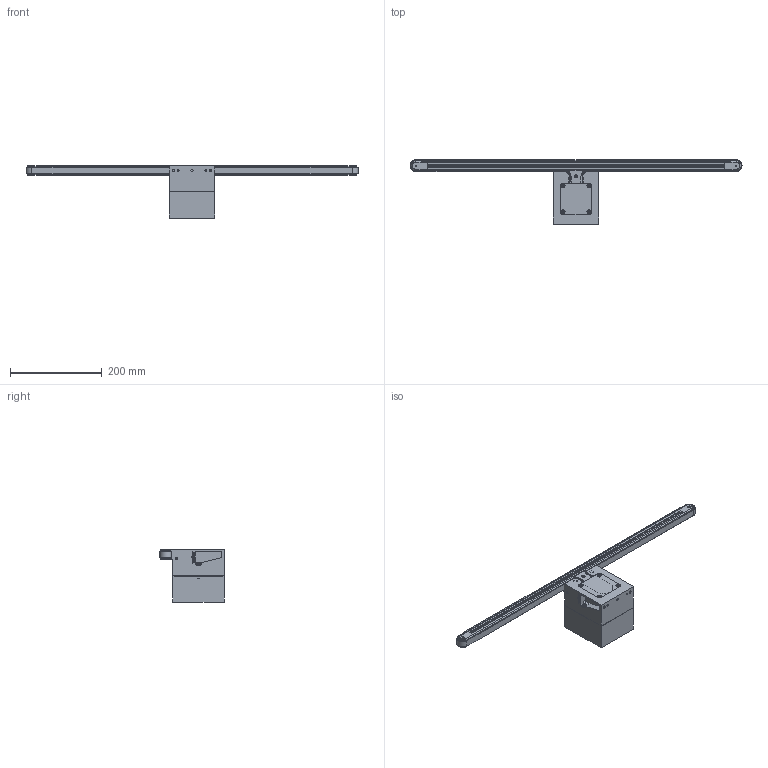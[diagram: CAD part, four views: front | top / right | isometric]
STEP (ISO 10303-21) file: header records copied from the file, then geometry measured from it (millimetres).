
FILE_DESCRIPTION(/* description */ (''),/* implementation_level */ '2;1');
FILE_NAME(/* name */ 'G:\DATEN\CAD\Förderband\Marketing\3D-Modelle (Standard)\FR-20-20-M\FR-20-20-M-700-K.stp',/* time_stamp */ '2019-03-27T16:24:24+01:00',/* author */ ('pia.schaefer'),/* organization */ (''),/* preprocessor_version */ 'ST-DEVELOPER v17',/* originating_system */ 'Autodesk Inventor 2019',/* authorisation */ '');
FILE_SCHEMA (('AUTOMOTIVE_DESIGN { 1 0 10303 214 3 1 1 }'));
Length unit declared in the file: millimetre
Products named in the file (1): FR-20-20-M-700-K
Bounding box: 725.6 x 140.3 x 114 mm (x, y, z)
Volume: 1424677 mm3; surface area: 338700.3 mm2
Topology: 33 solids, 36 shells, 970 faces, 2643 edges, 1785 vertices
Faces by surface type: plane 521, cylinder 234, bspline 122, cone 77, torus 16
Full cylindrical faces by diameter (mm): 1.6 x4, 2.459 x2, 3 x2, 3.5 x4, 4 x6, 4.134 x6, 4.3 x1, 4.5 x4, 4.917 x3, 5 x10, 5.2 x2, 5.5 x2, 6.5 x1, 6.647 x1, 6.773 x1, 7 x2, 8 x14, 8.773 x1, 9.43 x2, 9.6 x2, 10 x5, 11 x1, 22 x2, 24 x2
Entity records: 33255 total; most frequent: CARTESIAN_POINT 8162, ORIENTED_EDGE 5242, DIRECTION 4631, EDGE_CURVE 2621, VERTEX_POINT 1785, AXIS2_PLACEMENT_3D 1551, LINE 1529, VECTOR 1529
